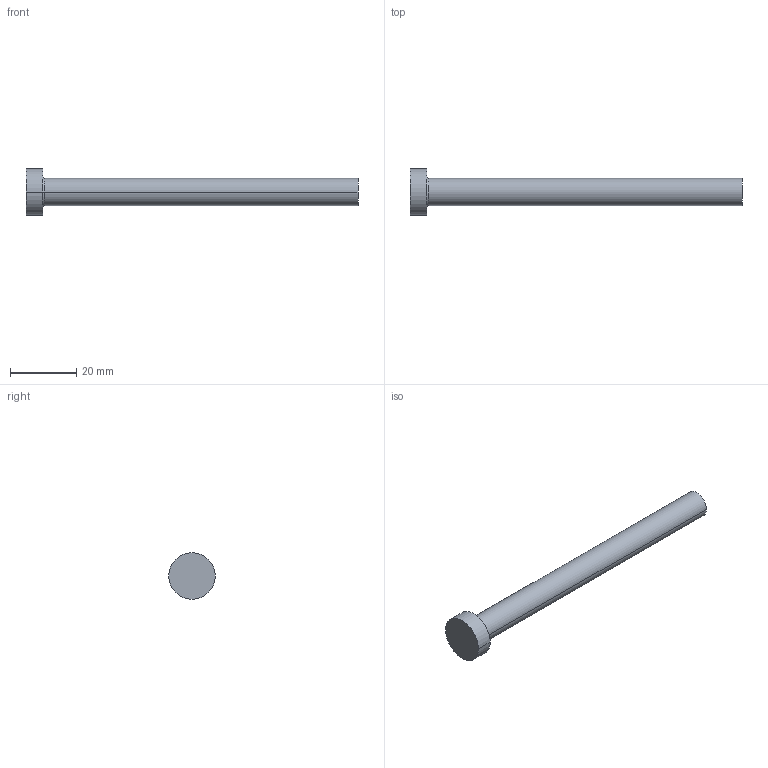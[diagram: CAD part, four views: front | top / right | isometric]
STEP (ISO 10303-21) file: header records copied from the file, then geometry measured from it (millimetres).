
FILE_DESCRIPTION (( 'STEP AP214' ), '1' );
FILE_NAME ('A-8,2x100.STEP', '2020-05-29T15:47:47', ( 'August' ), ( '' ), 'SwSTEP 2.0', 'SolidWorks 2018', '' );
FILE_SCHEMA (( 'AUTOMOTIVE_DESIGN' ));
Length unit declared in the file: millimetre
Products named in the file (1): A-8,2x100
Bounding box: 100 x 14 x 14 mm (x, y, z)
Volume: 5788.1 mm3; surface area: 2969.7 mm2
Topology: 1 solids, 1 shells, 9 faces, 16 edges, 10 vertices
Faces by surface type: cylinder 4, plane 3, torus 2
Entity records: 260 total; most frequent: DIRECTION 48, CARTESIAN_POINT 36, ORIENTED_EDGE 32, AXIS2_PLACEMENT_3D 22, EDGE_CURVE 16, CIRCLE 12, VERTEX_POINT 10, EDGE_LOOP 10
